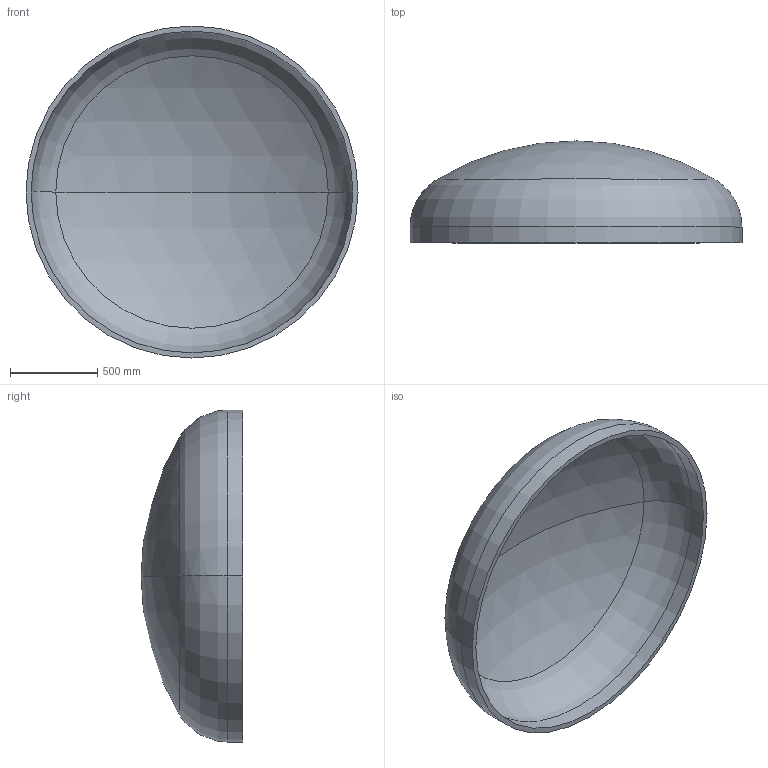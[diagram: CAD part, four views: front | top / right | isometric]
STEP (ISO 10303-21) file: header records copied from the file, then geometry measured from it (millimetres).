
FILE_DESCRIPTION (( 'STEP AP203' ), '1' );
FILE_NAME ('DIN 28013 Korbbogenform_-_Boden DIN 28013 - 1900 x 90 - I - s=29.step', '2016-07-01T13:03:37', ( '' ), ( '' ), 'SwSTEP 2.0', 'SolidWorks 2013', '' );
FILE_SCHEMA (( 'CONFIG_CONTROL_DESIGN' ));
Length unit declared in the file: millimetre
Products named in the file (1): DIN 28013 Korbbogenform_-_Boden DIN 28013 - 1900 x 90 - I - s=29
Bounding box: 1900 x 583.19 x 1900 mm (x, y, z)
Volume: 126751662.1 mm3; surface area: 8913712 mm2
Topology: 1 solids, 1 shells, 13 faces, 24 edges, 14 vertices
Faces by surface type: torus 4, cylinder 4, sphere 4, plane 1
Entity records: 407 total; most frequent: DIRECTION 72, CARTESIAN_POINT 52, ORIENTED_EDGE 48, AXIS2_PLACEMENT_3D 34, EDGE_CURVE 24, CIRCLE 20, VERTEX_POINT 14, EDGE_LOOP 14
